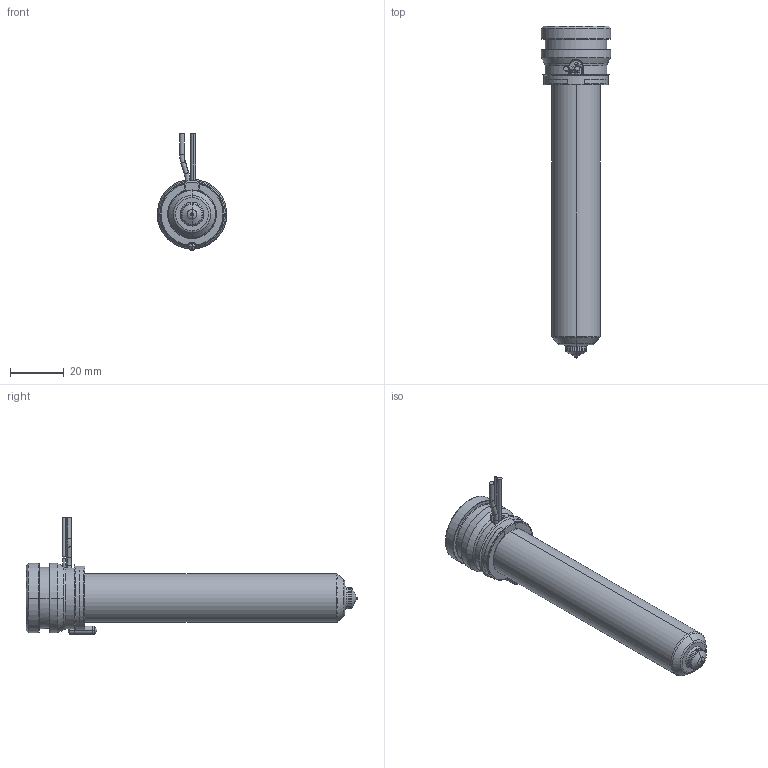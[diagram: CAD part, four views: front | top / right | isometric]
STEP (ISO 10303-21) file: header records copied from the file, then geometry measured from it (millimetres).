
FILE_DESCRIPTION((''),'2;1');
FILE_NAME('MPN-08-24-VS8-106-A','2026-02-05T11:58:10',('UPTIO'),('Thermoplay S.p.A.'),'CREO PARAMETRIC BY PTC INC, 2023494','CREO PARAMETRIC BY PTC INC, 2023494','');
FILE_SCHEMA(('CONFIG_CONTROL_DESIGN','SHAPE_APPEARANCE_LAYERS_GROUPS'));
Length unit declared in the file: millimetre
Products named in the file (1): MPN-08-24-VS8-106-A
Bounding box: 26 x 124 x 43.5 mm (x, y, z)
Volume: 24363.4 mm3; surface area: 30952.6 mm2
Topology: 2 solids, 3 shells, 543 faces, 1434 edges, 889 vertices
Faces by surface type: cylinder 180, plane 143, bspline 82, torus 62, cone 60, sphere 10, extrusion 6
Entity records: 28472 total; most frequent: CARTESIAN_POINT 12296, ORIENTED_EDGE 2852, DIRECTION 2568, EDGE_CURVE 1426, AXIS2_PLACEMENT_3D 1003, VERTEX_POINT 889, EDGE_LOOP 571, VECTOR 562
